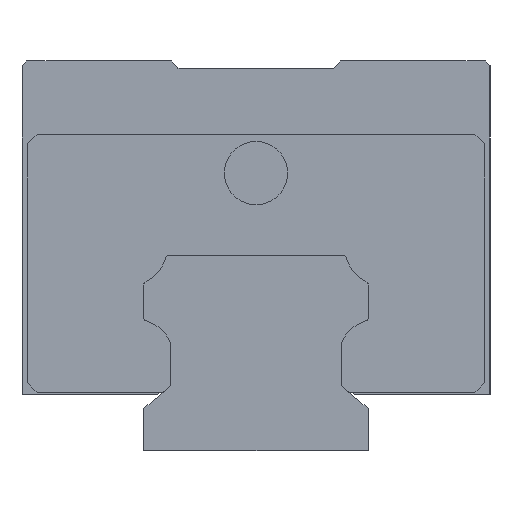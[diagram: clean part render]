
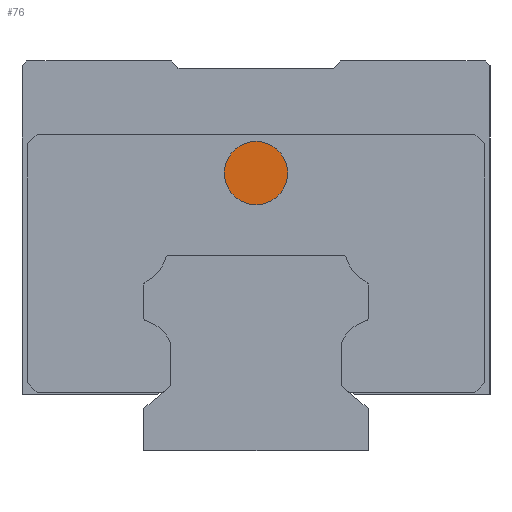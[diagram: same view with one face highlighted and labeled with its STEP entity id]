
A CAD part, left-side view. The second image highlights one B-rep face of the part: STEP entity #76.
In plain terms, the highlighted planar face has unit normal (-1, 0, 0).
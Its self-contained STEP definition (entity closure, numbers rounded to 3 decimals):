
#76 = ADVANCED_FACE ( 'NONE', ( #3790 ), #5175, .T. ) ;
#298 = CARTESIAN_POINT ( 'NONE',  ( -44., 0., 28.5 ) ) ;
#439 = AXIS2_PLACEMENT_3D ( 'NONE', #5740, #2119, #2595 ) ;
#698 = DIRECTION ( 'NONE',  ( 0., 0., -1. ) ) ;
#873 = EDGE_CURVE ( 'NONE', #2672, #2642, #4853, .T. ) ;
#874 = ORIENTED_EDGE ( 'NONE', *, *, #873, .F. ) ;
#1657 = EDGE_CURVE ( 'NONE', #2642, #2672, #4579, .T. ) ;
#1795 = ORIENTED_EDGE ( 'NONE', *, *, #1657, .F. ) ;
#2111 = DIRECTION ( 'NONE',  ( 0., 0., -1. ) ) ;
#2119 = DIRECTION ( 'NONE',  ( -1., 0., 0. ) ) ;
#2553 = AXIS2_PLACEMENT_3D ( 'NONE', #4343, #3984, #698 ) ;
#2595 = DIRECTION ( 'NONE',  ( 0., 0., -1. ) ) ;
#2642 = VERTEX_POINT ( 'NONE', #4060 ) ;
#2654 = DIRECTION ( 'NONE',  ( 1., 0., 0. ) ) ;
#2672 = VERTEX_POINT ( 'NONE', #4636 ) ;
#3526 = AXIS2_PLACEMENT_3D ( 'NONE', #298, #2654, #2111 ) ;
#3790 = FACE_OUTER_BOUND ( 'NONE', #4310, .T. ) ;
#3984 = DIRECTION ( 'NONE',  ( 1., 0., 0. ) ) ;
#4060 = CARTESIAN_POINT ( 'NONE',  ( -44., 0., 25.25 ) ) ;
#4310 = EDGE_LOOP ( 'NONE', ( #874, #1795 ) ) ;
#4343 = CARTESIAN_POINT ( 'NONE',  ( -44., 0., 28.5 ) ) ;
#4579 = CIRCLE ( 'NONE', #3526, 3.25 ) ;
#4636 = CARTESIAN_POINT ( 'NONE',  ( -44., 0., 31.75 ) ) ;
#4853 = CIRCLE ( 'NONE', #2553, 3.25 ) ;
#5175 = PLANE ( 'NONE',  #439 ) ;
#5740 = CARTESIAN_POINT ( 'NONE',  ( -44., 0., 28.5 ) ) ;
